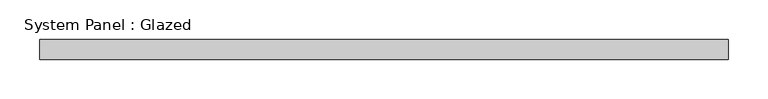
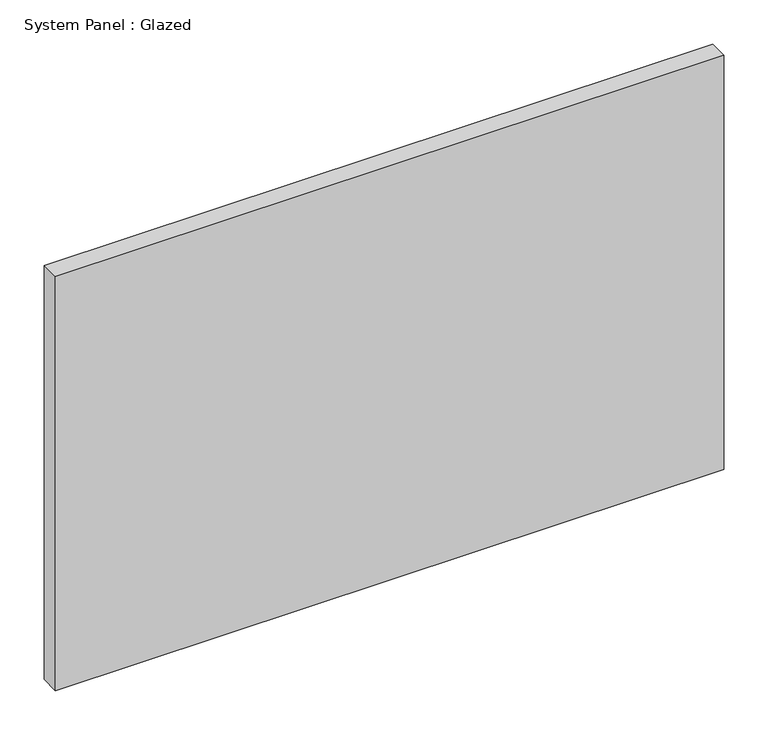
"""IFC4 building model written with IfcOpenShell, lengths in millimetres: plate geometry, System Panel : Glazed."""

from ifc_helpers import new_model, si_unit, origin, origin_with_axes, place, context, project, spatial, polyline, outline, extrude, source, transform, mapped, element, save


def system_panel_glazed_1c5266c5(model_context):
    return source(origin(), model_context, "Body", "SweptSolid", [
        extrude(outline(polyline([(435.9649128, 19.05), (-435.9649128, 19.05), (-435.9649128, 44.45), (435.9649128, 44.45), (435.9649128, 19.05)])), origin_with_axes(), (0.0, 0.0, 1.0), 571.5),
    ])


if __name__ == "__main__":
    model = new_model("IFC4")
    model_context = context("Model", 3, world=origin())
    ifc_project = project(units=[si_unit("LENGTHUNIT", "METRE", prefix="MILLI")], contexts=[model_context])
    site = spatial("IfcSite", under=ifc_project)
    building = spatial("IfcBuilding", under=site)
    placement = place(None, origin())
    system_panel_glazed_shape = system_panel_glazed_1c5266c5(model_context)
    element("IfcPlate", 1, ObjectType="System Panel : Glazed", at=placement, inside=building, context=model_context, shape_type="MappedRepresentation", body=[
        mapped(system_panel_glazed_shape, transform((0.0, 0.0, 0.0), x_axis=(1.0, 0.0, 0.0), y_axis=(0.0, 1.0, 0.0), z_axis=(0.0, 0.0, 1.0))),
    ])
    save(model, "model.ifc")
